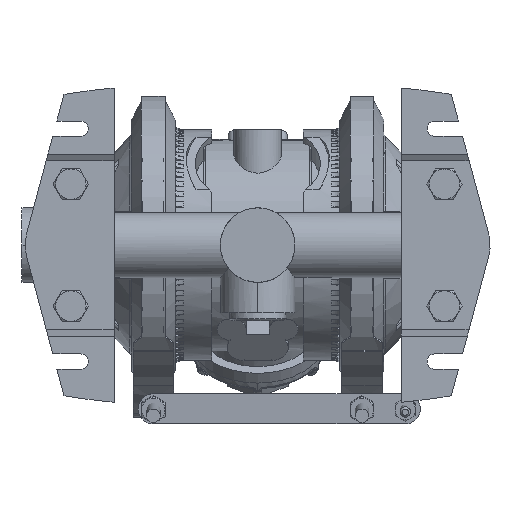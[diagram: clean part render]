
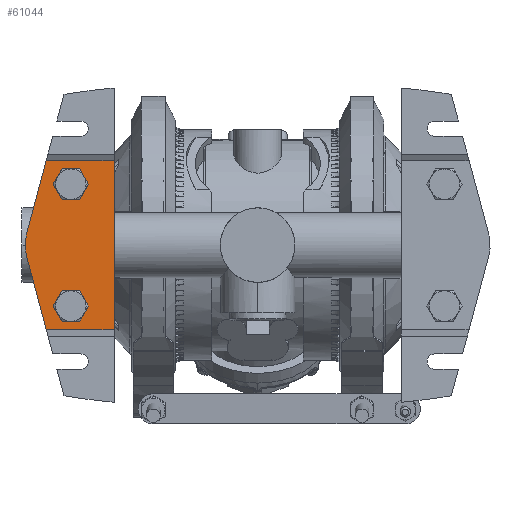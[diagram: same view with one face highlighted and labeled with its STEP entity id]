
A CAD part, front view. The second image highlights one B-rep face of the part: STEP entity #61044.
In plain terms, the highlighted planar face has unit normal (0, -1, 0).
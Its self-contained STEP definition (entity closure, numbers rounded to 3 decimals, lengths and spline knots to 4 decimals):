
#60545=DIRECTION('',(0.,0.,-1.));
#60546=VECTOR('',#60545,3.12);
#60547=CARTESIAN_POINT('',(-2.649,-4.7696,1.56));
#60548=LINE('',#60547,#60546);
#60627=DIRECTION('',(1.,0.,0.));
#60628=VECTOR('',#60627,1.2532);
#60629=CARTESIAN_POINT('',(-3.9022,-4.7696,-1.56));
#60630=LINE('',#60629,#60628);
#60631=DIRECTION('',(-0.259,0.,0.966));
#60632=VECTOR('',#60631,1.4007);
#60633=CARTESIAN_POINT('',(-3.9022,-4.7696,-1.56));
#60634=LINE('',#60633,#60632);
#60635=CARTESIAN_POINT('',(-3.492,-4.7696,0.));
#60636=DIRECTION('',(0.,-1.,0.));
#60637=DIRECTION('',(-0.966,0.,0.259));
#60638=AXIS2_PLACEMENT_3D('',#60635,#60636,#60637);
#60640=DIRECTION('',(-0.259,0.,-0.966));
#60641=VECTOR('',#60640,1.4007);
#60642=CARTESIAN_POINT('',(-3.9022,-4.7696,1.56));
#60643=LINE('',#60642,#60641);
#60644=DIRECTION('',(1.,0.,0.));
#60645=VECTOR('',#60644,1.2532);
#60646=CARTESIAN_POINT('',(-3.9022,-4.7696,1.56));
#60647=LINE('',#60646,#60645);
#60808=CARTESIAN_POINT('',(-2.649,-4.7696,1.56));
#60810=VERTEX_POINT('',#60808);
#60811=CARTESIAN_POINT('',(-2.649,-4.7696,-1.56));
#60812=VERTEX_POINT('',#60811);
#60832=CARTESIAN_POINT('',(-3.9022,-4.7696,1.56));
#60834=VERTEX_POINT('',#60832);
#60835=CARTESIAN_POINT('',(-3.9022,-4.7696,-1.56));
#60836=CARTESIAN_POINT('',(-4.2647,-4.7696,-0.2071));
#60837=VERTEX_POINT('',#60835);
#60838=VERTEX_POINT('',#60836);
#60839=CARTESIAN_POINT('',(-4.2647,-4.7696,0.2071));
#60840=VERTEX_POINT('',#60839);
#61028=CARTESIAN_POINT('',(-4.349,-4.7696,1.56));
#61029=DIRECTION('',(0.,-1.,0.));
#61030=DIRECTION('',(0.,0.,-1.));
#61031=AXIS2_PLACEMENT_3D('',#61028,#61029,#61030);
#61032=PLANE('',#61031);
#61033=ORIENTED_EDGE('',*,*,#60957,.T.);
#61035=ORIENTED_EDGE('',*,*,#61034,.F.);
#61037=ORIENTED_EDGE('',*,*,#61036,.F.);
#61039=ORIENTED_EDGE('',*,*,#61038,.T.);
#61040=ORIENTED_EDGE('',*,*,#60906,.T.);
#61041=ORIENTED_EDGE('',*,*,#61021,.F.);
#61042=EDGE_LOOP('',(#61033,#61035,#61037,#61039,#61040,#61041));
#61043=FACE_OUTER_BOUND('',#61042,.F.);
#61044=ADVANCED_FACE('',(#61043),#61032,.T.);
#60639=CIRCLE('',#60638,0.8);
#60906=EDGE_CURVE('',#60810,#60812,#60548,.T.);
#60957=EDGE_CURVE('',#60837,#60838,#60634,.T.);
#61021=EDGE_CURVE('',#60837,#60812,#60630,.T.);
#61034=EDGE_CURVE('',#60840,#60838,#60639,.T.);
#61036=EDGE_CURVE('',#60834,#60840,#60643,.T.);
#61038=EDGE_CURVE('',#60834,#60810,#60647,.T.);
